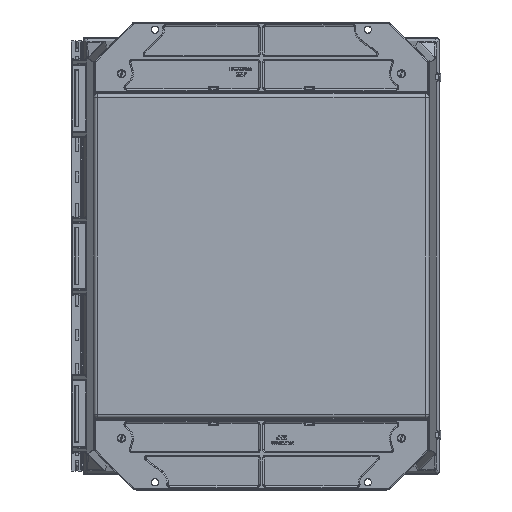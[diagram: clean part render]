
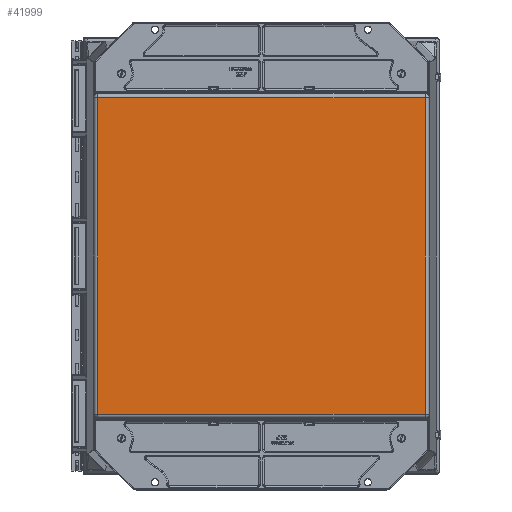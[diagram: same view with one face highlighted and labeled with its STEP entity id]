
A CAD part, front view. The second image highlights one B-rep face of the part: STEP entity #41999.
In plain terms, the highlighted planar face has unit normal (0, -1, 0).
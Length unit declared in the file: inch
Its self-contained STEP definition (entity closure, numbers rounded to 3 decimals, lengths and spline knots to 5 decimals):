
#2064 = FACE_OUTER_BOUND ( 'NONE', #50322, .T. ) ;
#2760 = DIRECTION ( 'NONE',  ( 1., 0., 0. ) ) ;
#4149 = PLANE ( 'NONE',  #21509 ) ;
#5186 = ORIENTED_EDGE ( 'NONE', *, *, #73392, .T. ) ;
#12097 = DIRECTION ( 'NONE',  ( 0., -1., 0. ) ) ;
#17374 = VERTEX_POINT ( 'NONE', #48733 ) ;
#21509 = AXIS2_PLACEMENT_3D ( 'NONE', #35226, #12097, #67135 ) ;
#21815 = ORIENTED_EDGE ( 'NONE', *, *, #59269, .T. ) ;
#27207 = DIRECTION ( 'NONE',  ( -1., 0., 0. ) ) ;
#27699 = ORIENTED_EDGE ( 'NONE', *, *, #89027, .T. ) ;
#30233 = EDGE_CURVE ( 'NONE', #62600, #55435, #93322, .T. ) ;
#31547 = VECTOR ( 'NONE', #27207, 39.37008 ) ;
#34994 = DIRECTION ( 'NONE',  ( 0., 0., -1. ) ) ;
#35226 = CARTESIAN_POINT ( 'NONE',  ( -8.36, -10.125, -10.25 ) ) ;
#39371 = VERTEX_POINT ( 'NONE', #96310 ) ;
#41999 = ADVANCED_FACE ( 'NONE', ( #2064 ), #4149, .T. ) ;
#45302 = CARTESIAN_POINT ( 'NONE',  ( 7.69528, -10.125, 7.625 ) ) ;
#48733 = CARTESIAN_POINT ( 'NONE',  ( 7.69528, -10.125, 7.44442 ) ) ;
#49014 = VECTOR ( 'NONE', #34994, 39.37008 ) ;
#50322 = EDGE_LOOP ( 'NONE', ( #21815, #80655, #5186, #27699 ) ) ;
#53177 = DIRECTION ( 'NONE',  ( 0., 0., 1. ) ) ;
#55435 = VERTEX_POINT ( 'NONE', #93006 ) ;
#58593 = LINE ( 'NONE', #89236, #77064 ) ;
#59269 = EDGE_CURVE ( 'NONE', #17374, #62600, #65910, .T. ) ;
#61382 = CARTESIAN_POINT ( 'NONE',  ( -7.69528, -10.125, 7.44442 ) ) ;
#62600 = VERTEX_POINT ( 'NONE', #61382 ) ;
#65910 = LINE ( 'NONE', #66377, #31547 ) ;
#66377 = CARTESIAN_POINT ( 'NONE',  ( -7.87587, -10.125, 7.44442 ) ) ;
#67135 = DIRECTION ( 'NONE',  ( 0., 0., -1. ) ) ;
#73392 = EDGE_CURVE ( 'NONE', #55435, #39371, #58593, .T. ) ;
#74156 = CARTESIAN_POINT ( 'NONE',  ( -7.69528, -10.125, -7.625 ) ) ;
#75637 = VECTOR ( 'NONE', #53177, 39.37008 ) ;
#77064 = VECTOR ( 'NONE', #2760, 39.37008 ) ;
#78114 = LINE ( 'NONE', #45302, #75637 ) ;
#80655 = ORIENTED_EDGE ( 'NONE', *, *, #30233, .T. ) ;
#89027 = EDGE_CURVE ( 'NONE', #39371, #17374, #78114, .T. ) ;
#89236 = CARTESIAN_POINT ( 'NONE',  ( 7.87587, -10.125, -7.44442 ) ) ;
#93006 = CARTESIAN_POINT ( 'NONE',  ( -7.69528, -10.125, -7.44442 ) ) ;
#93322 = LINE ( 'NONE', #74156, #49014 ) ;
#96310 = CARTESIAN_POINT ( 'NONE',  ( 7.69528, -10.125, -7.44442 ) ) ;
